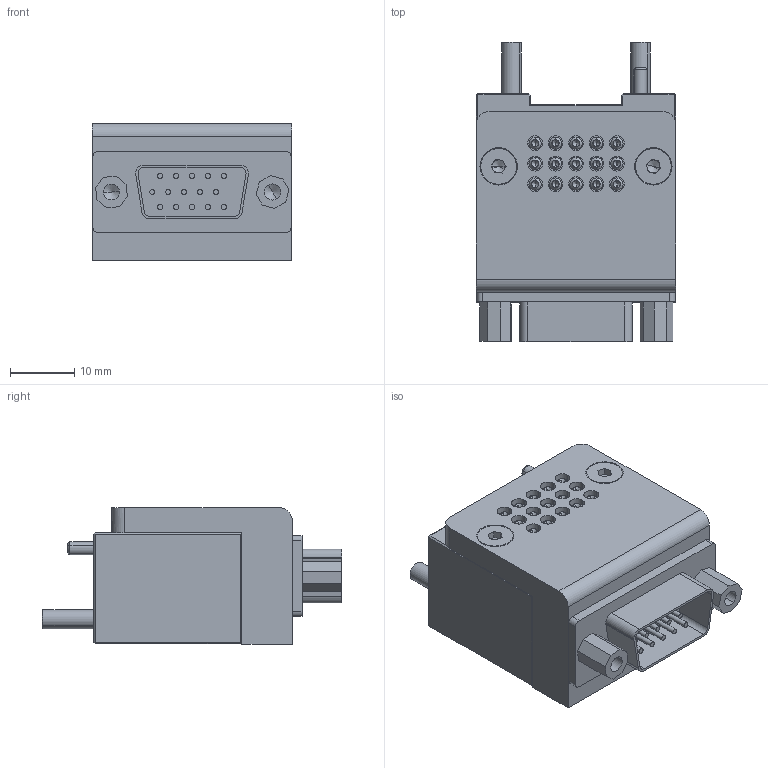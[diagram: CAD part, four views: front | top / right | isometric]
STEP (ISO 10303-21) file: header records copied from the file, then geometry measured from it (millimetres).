
FILE_DESCRIPTION (( 'STEP AP214' ), '1' );
FILE_NAME ('QCSM-15R1.STEP', '2024-11-18T03:41:47', ( '' ), ( '' ), 'SwSTEP 2.0', 'SolidWorks 2022', '' );
FILE_SCHEMA (( 'AUTOMOTIVE_DESIGN' ));
Length unit declared in the file: millimetre
Products named in the file (1): QCSM-15R1
Bounding box: 31 x 46.5 x 21.2 mm (x, y, z)
Volume: 15939.6 mm3; surface area: 10786.8 mm2
Topology: 1 solids, 8 shells, 572 faces, 1328 edges, 825 vertices
Faces by surface type: plane 264, cylinder 203, cone 92, torus 12, bspline 1
Entity records: 16302 total; most frequent: CARTESIAN_POINT 2981, DIRECTION 2964, ORIENTED_EDGE 2572, EDGE_CURVE 1286, AXIS2_PLACEMENT_3D 1134, VERTEX_POINT 825, VECTOR 696, LINE 696
